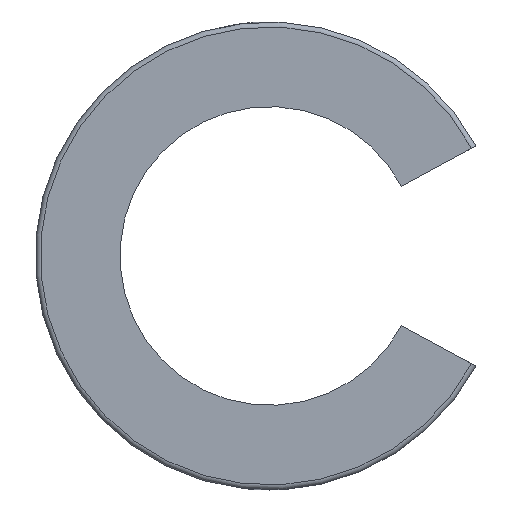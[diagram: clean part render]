
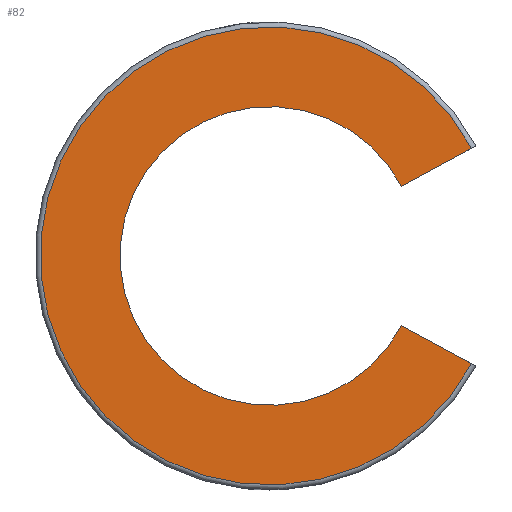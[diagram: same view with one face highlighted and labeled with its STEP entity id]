
A CAD part, left-side view. The second image highlights one B-rep face of the part: STEP entity #82.
In plain terms, the highlighted planar face has unit normal (-1, 0, 0).
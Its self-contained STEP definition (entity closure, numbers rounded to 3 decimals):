
#82=ADVANCED_FACE('',(#112),#113,.T.);
#112=FACE_OUTER_BOUND('',#156,.T.);
#113=PLANE('',#157);
#156=EDGE_LOOP('',(#245,#246,#247,#248));
#157=AXIS2_PLACEMENT_3D('',#249,#250,#251);
#245=ORIENTED_EDGE('',*,*,#352,.T.);
#246=ORIENTED_EDGE('',*,*,#365,.T.);
#247=ORIENTED_EDGE('',*,*,#366,.F.);
#248=ORIENTED_EDGE('',*,*,#349,.T.);
#249=CARTESIAN_POINT('',(-34.0,15.0,0.0));
#250=DIRECTION('',(-1.0,0.0,0.0));
#251=DIRECTION('',(0.0,0.0,1.0));
#349=EDGE_CURVE('',#383,#407,#409,.T.);
#352=EDGE_CURVE('',#407,#412,#414,.T.);
#365=EDGE_CURVE('',#412,#434,#435,.T.);
#366=EDGE_CURVE('',#383,#434,#436,.T.);
#383=VERTEX_POINT('',#461);
#407=VERTEX_POINT('',#501);
#409=LINE('',#508,#509);
#412=VERTEX_POINT('',#512);
#414=CIRCLE('',#519,23.0);
#434=VERTEX_POINT('',#646);
#435=LINE('',#647,#648);
#436=CIRCLE('',#649,15.0);
#461=CARTESIAN_POINT('',(-34.0,-13.266,7.0));
#501=CARTESIAN_POINT('',(-34.,-20.297,10.817));
#508=CARTESIAN_POINT('',(-34.0,11.5,-6.447));
#509=VECTOR('',#695,1.0);
#512=CARTESIAN_POINT('',(-34.,-20.297,-10.817));
#519=AXIS2_PLACEMENT_3D('',#699,#700,#701);
#646=CARTESIAN_POINT('',(-34.0,-13.266,-7.0));
#647=CARTESIAN_POINT('',(-34.0,11.5,6.447));
#648=VECTOR('',#722,1.0);
#649=AXIS2_PLACEMENT_3D('',#723,#724,#725);
#695=DIRECTION('',(0.0,-0.879,0.477));
#699=CARTESIAN_POINT('',(-34.0,0.0,0.0));
#700=DIRECTION('',(-1.0,0.0,0.0));
#701=DIRECTION('',(0.0,0.0,1.0));
#722=DIRECTION('',(0.0,0.879,0.477));
#723=CARTESIAN_POINT('',(-34.0,0.0,0.0));
#724=DIRECTION('',(-1.0,0.0,0.0));
#725=DIRECTION('',(0.0,0.0,1.0));
